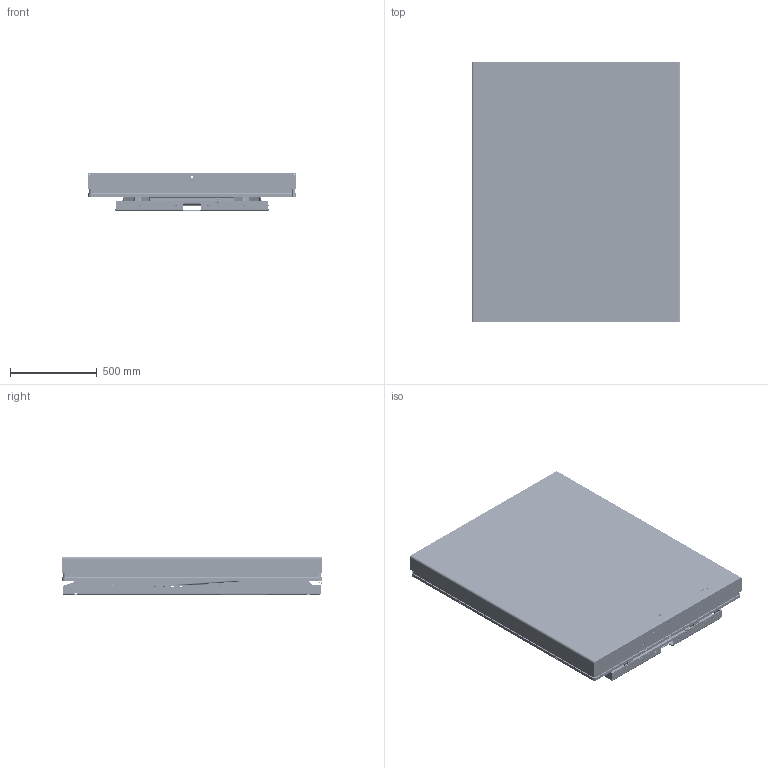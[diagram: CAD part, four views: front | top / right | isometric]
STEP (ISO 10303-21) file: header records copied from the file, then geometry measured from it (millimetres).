
FILE_DESCRIPTION(/* description */ ('TB 2000B (1500x1200)'),/* implementation_level */ '2;1');
FILE_NAME(/* name */ 'C:\Autodesk_VaultWork\Ritningar\Exporterade modeller\TB 2000B - (22254)\22254_Closed_Height.stp',/* time_stamp */ '2018-04-12T13:24:10+02:00',/* author */ ('HANVI'),/* organization */ (''),/* preprocessor_version */ 'ST-DEVELOPER v16.5',/* originating_system */ 'Autodesk Inventor 2017',/* authorisation */ '');
FILE_SCHEMA (('AUTOMOTIVE_DESIGN { 1 0 10303 214 3 1 1 }'));
Products named in the file (81): 22254; 36621; 36621-1; 44870; 36617; 36616; 36613-2; 82148-1310; 82159 - 660; 36615; 36613-1; 82148-1310_1; 82732 - 478; 44247; 82510; 612192; 33605C; 80000 - 792; 36620; 36620-1; 45259; 41333-820; 45387; 42754; 85955; 80131; 32708; 610084; 42289-1455; 42289-1155; 43481; 42330; 33990; 33991; 44283; 44280; 44279; Compression-Spring-SF-TF1272-SS1774-04-Lesjofors-STEP; ISO 7089 - 5 - 140 HV; 84253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
Assembly tree (152 placements, depth 5):
  22254
    36621
      36621-1
      45259  x2
      44870  x2
    36617
      36616
        36613-2  x2
          82148-1310
        82159 - 660
      36615
        36613-1  x2
          82148-1310_1
        82732 - 478
        44247  x2
      82510  x2
      82021
      612192
        33605C
        80000 - 792
    36620
      36620-1
      45259  x2
      41333-820
      45387  x6
      42754  x2
      85955
      80131  x4
    82021  x2
    32708  x2
    610084
      42289-1455  x2
      42289-1155  x2
      43481  x4
      42330  x4
      33990  x2
        33991
        44283
        44280
        44279
        Compression-Spring-SF-TF1272-SS1774-04-Lesjofors-STEP
        ISO 7089 - 5 - 140 HV
        84253
        44281
          44281-1
          ISO 2009 - M4 x 12
        84076
        83928
        44277
        44278
        33992
        ISO 7380 - M4 x 10
      611843  x4
      83552  x4
    608295
      42509
      43841
      33048
      43216
      83244
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Bounding box: 1200.2 x 1500.2 x 221 mm (x, y, z)
Volume: 30996833.2 mm3; surface area: 13056494.2 mm2
Topology: 166 solids, 166 shells, 7380 faces, 18741 edges, 11735 vertices
Faces by surface type: plane 3240, cylinder 2372, cone 797, bspline 520, torus 330, sphere 121
Full cylindrical faces by diameter (mm): 0.474 x2, 1 x4, 3 x4, 3.141 x4, 3.2 x4, 3.242 x4, 4 x14, 4.3 x4, 4.445 x4, 4.9 x2, 4.917 x1, 5 x4, 5.156 x4, 5.2 x6, 5.3 x4, 5.55 x2, 5.969 x4, 6 x1, 6.4 x2, 6.647 x4, 6.7 x1, 6.8 x8, 7.4 x8, 7.6 x4, 8 x14, 8.5 x4, 8.9 x1, 9 x1, 10 x6, 10.5 x16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
Entity records: 104645 total; most frequent: CARTESIAN_POINT 25083, DIRECTION 16349, ORIENTED_EDGE 15808, EDGE_CURVE 7903, AXIS2_PLACEMENT_3D 5805, VERTEX_POINT 5169, LINE 4739, VECTOR 4739
